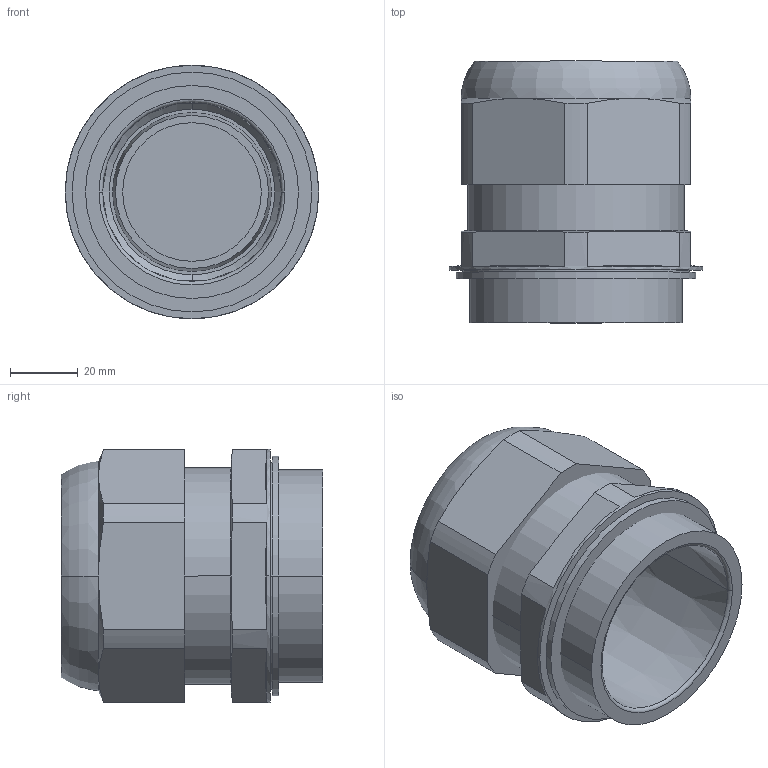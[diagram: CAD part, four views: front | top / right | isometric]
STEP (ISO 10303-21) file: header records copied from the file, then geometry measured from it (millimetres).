
FILE_DESCRIPTION (( 'STEP AP203' ), '1' );
FILE_NAME ('8161_5-M63-48.STEP', '2013-11-28T08:03:53', ( 'Admin' ), ( 'R. STAHL AG' ), 'SwSTEP 2.0', 'SolidWorks 2013', '' );
FILE_SCHEMA (( 'CONFIG_CONTROL_DESIGN' ));
Length unit declared in the file: millimetre
Products named in the file (6): Anschlussgewindedichtung_M63; 81_619_01_59_0_81_619_11_59_0; 8161_5-M63-48; 81_610_82_01_0_Stutzen; 81_610_82_01_0_Dichtung; 81_610_90_01_0_Hutmutter
Assembly tree (5 placements, depth 2):
  8161_5-M63-48
    81_610_82_01_0_Stutzen
    81_610_82_01_0_Dichtung
    81_610_90_01_0_Hutmutter
    Anschlussgewindedichtung_M63
    81_619_01_59_0_81_619_11_59_0
Bounding box: 75 x 77.41 x 75 mm (x, y, z)
Volume: 132357.8 mm3; surface area: 73905.4 mm2
Topology: 5 solids, 5 shells, 749 faces, 1974 edges, 1222 vertices
Faces by surface type: cone 222, cylinder 188, plane 174, torus 105, bspline 60
Entity records: 23980 total; most frequent: CARTESIAN_POINT 5152, DIRECTION 3906, ORIENTED_EDGE 3888, EDGE_CURVE 1944, AXIS2_PLACEMENT_3D 1502, VERTEX_POINT 1222, LINE 902, VECTOR 902
